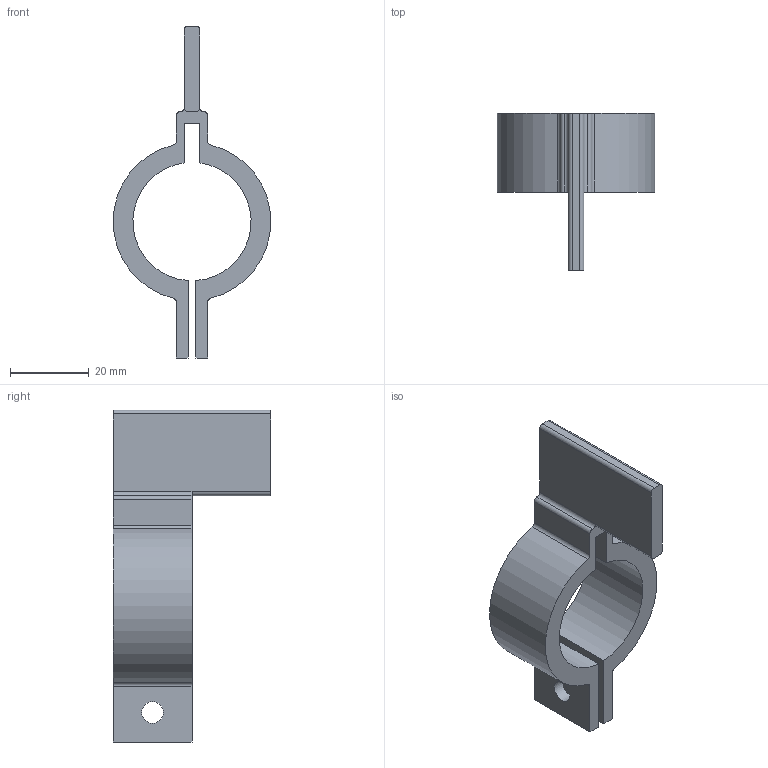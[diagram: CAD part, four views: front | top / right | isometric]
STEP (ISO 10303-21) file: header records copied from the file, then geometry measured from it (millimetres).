
FILE_DESCRIPTION(/* description */ (''),/* implementation_level */ '2;1');
FILE_NAME(/* name */ 'cooker_knob v3.step',/* time_stamp */ '2026-04-10T14:26:52+02:00',/* author */ (''),/* organization */ (''),/* preprocessor_version */ 'ST-DEVELOPER v20.1',/* originating_system */ 'Autodesk Translation Framework v14.24.0.0',/* authorisation */ '');
FILE_SCHEMA (('AUTOMOTIVE_DESIGN { 1 0 10303 214 3 1 1 }'));
Length unit declared in the file: millimetre
Products named in the file (1): (Niezapisany)
Bounding box: 40 x 40 x 84.19 mm (x, y, z)
Volume: 16373.6 mm3; surface area: 9712.4 mm2
Topology: 1 solids, 1 shells, 36 faces, 100 edges, 66 vertices
Faces by surface type: cylinder 18, plane 18
Full cylindrical faces by diameter (mm): 5.5 x2
Entity records: 1205 total; most frequent: DIRECTION 210, CARTESIAN_POINT 203, ORIENTED_EDGE 200, EDGE_CURVE 100, AXIS2_PLACEMENT_3D 73, VERTEX_POINT 66, LINE 64, VECTOR 64
